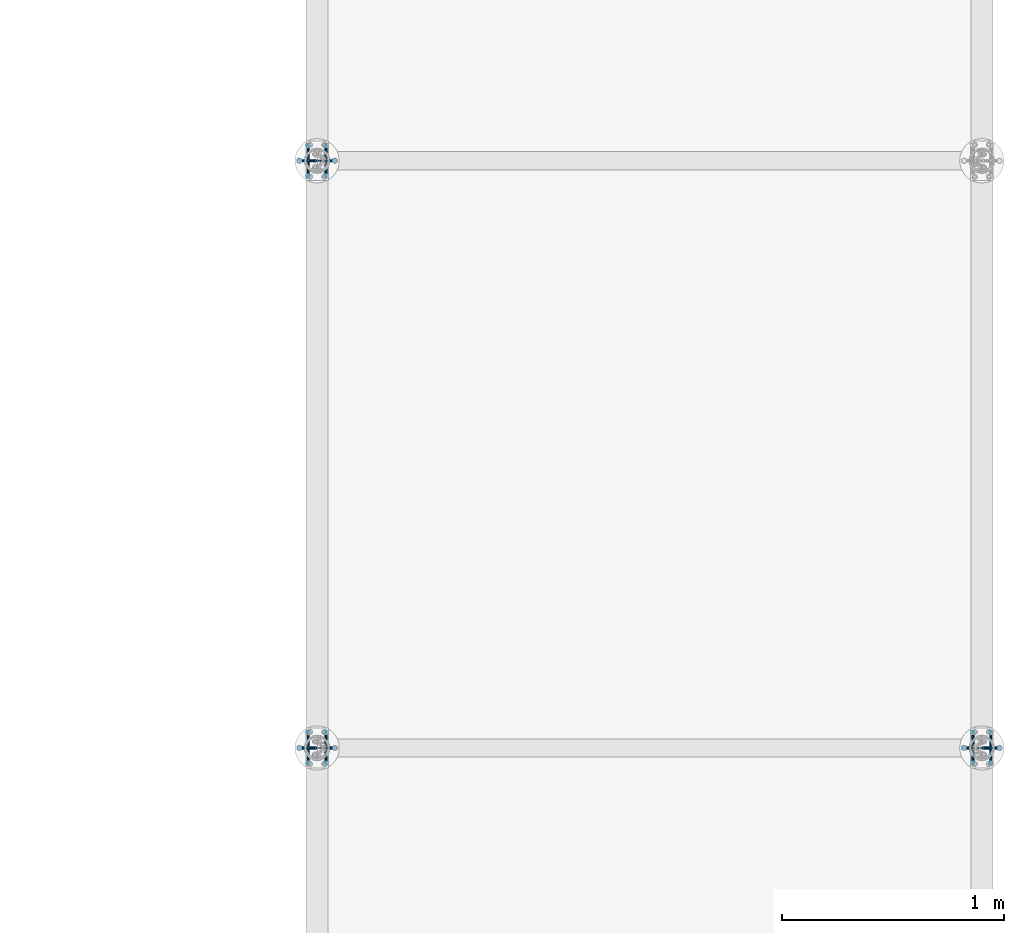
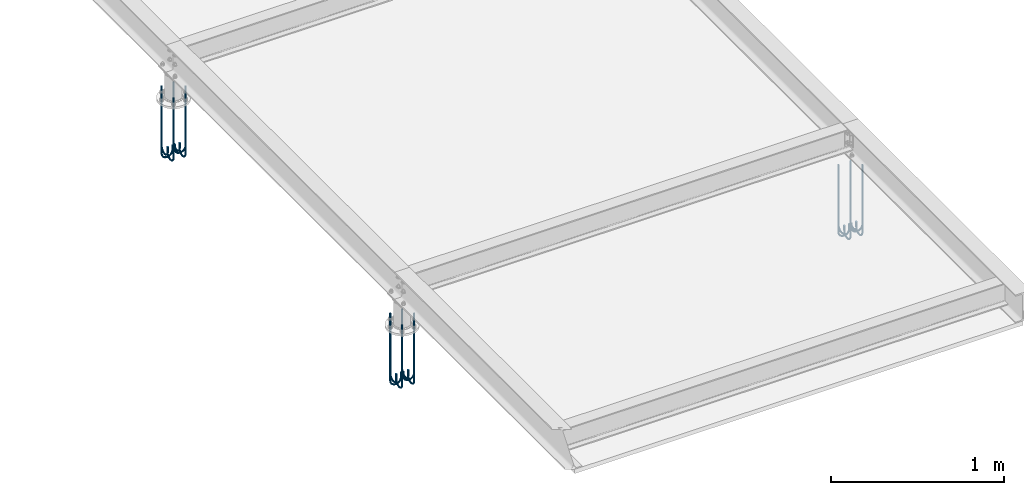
# One storey, part 10 of 84: 9 reinforcing bars.
"""IFC4 building model written with IfcOpenShell, lengths in metres."""

from ifc_helpers import new_model, entity, si_unit, frame, origin_with_axes, place, context, project, spatial, source, transform, mapped, element, save


model = new_model("IFC4")

# Units and contexts
model_context = context("Model", 3, precision=1e-05, world=origin_with_axes())
ifc_project = project(units=[si_unit("LENGTHUNIT", "METRE"), si_unit("AREAUNIT", "SQUARE_METRE"), si_unit("VOLUMEUNIT", "CUBIC_METRE"), si_unit("MASSUNIT", "GRAM", prefix="KILO"), si_unit("TIMEUNIT", "SECOND"), si_unit("PLANEANGLEUNIT", "RADIAN"), si_unit("SOLIDANGLEUNIT", "STERADIAN"), si_unit("THERMODYNAMICTEMPERATUREUNIT", "DEGREE_CELSIUS")], contexts=[model_context])

# Site, building, storey
placement_1 = place(None, origin_with_axes())
site = spatial("IfcSite", under=ifc_project, at=placement_1, Name="Italia", CompositionType="ELEMENT")
building = spatial("IfcBuilding", under=site, at=placement_1, Name="Tettoia", CompositionType="ELEMENT")
storey_placement = place(None, frame((0.0, 0.0, 4.199999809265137), z_axis=(0.0, 0.0, 1.0), x_axis=(1.0, 0.0, 0.0)))
storey = spatial("IfcBuildingStorey", under=building, at=storey_placement, Name="Storey 1", CompositionType="ELEMENT", Elevation=4.199999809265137)

# Reinforcing bars
shared_shape_1 = source(origin_with_axes(), model_context, "Body", "AdvancedSweptSolid", [
    entity("IfcSweptDiskSolid", entity("IfcIndexedPolyCurve", entity("IfcCartesianPointList3D", [[8.21, 2.0, 4.065], [8.21, 2.0, 3.642]]), [entity("IfcLineIndex", [1, 2])], False), 0.006),
])
placement_2 = place(placement_1, origin_with_axes())
reinforcing_bar_1_placement = place(placement_2, origin_with_axes())
element("IfcReinforcingBar", 1, at=reinforcing_bar_1_placement, inside=storey, BarLength=0.423, CrossSectionArea=0.0001131, NominalDiameter=0.012, context=model_context, shape_type="MappedRepresentation", body=[
    mapped(shared_shape_1, transform((0.120001, -0.0692821, 0.0), x_axis=(1.0, 0.0, 0.0), y_axis=(0.0, 1.0, 0.0), z_axis=(0.0, 0.0, 1.0), scale=1.0)),
    mapped(shared_shape_1, transform((0.0400009, -0.0692821, 0.0), x_axis=(1.0, 0.0, 0.0), y_axis=(0.0, 1.0, 0.0), z_axis=(0.0, 0.0, 1.0), scale=1.0)),
    mapped(shared_shape_1, transform((0.0, 0.0, 0.0), x_axis=(1.0, 0.0, 0.0), y_axis=(0.0, 1.0, 0.0), z_axis=(0.0, 0.0, 1.0), scale=1.0)),
    mapped(shared_shape_1, transform((0.0400009, 0.0692821, 0.0), x_axis=(1.0, 0.0, 0.0), y_axis=(0.0, 1.0, 0.0), z_axis=(0.0, 0.0, 1.0), scale=1.0)),
    mapped(shared_shape_1, transform((0.120001, 0.0692821, 0.0), x_axis=(1.0, 0.0, 0.0), y_axis=(0.0, 1.0, 0.0), z_axis=(0.0, 0.0, 1.0), scale=1.0)),
    mapped(shared_shape_1, transform((0.160002, 0.0, 0.0), x_axis=(1.0, 0.0, 0.0), y_axis=(0.0, 1.0, 0.0), z_axis=(0.0, 0.0, 1.0), scale=1.0)),
])
shared_shape_2 = source(origin_with_axes(), model_context, "Body", "AdvancedSweptSolid", [
    entity("IfcSweptDiskSolid", entity("IfcIndexedPolyCurve", entity("IfcCartesianPointList3D", [[8.21, 2.0, 3.642], [8.21274, 2.0, 3.62822]]), [entity("IfcLineIndex", [1, 2])], False), 0.006),
])
reinforcing_bar_2_placement = place(placement_2, origin_with_axes())
element("IfcReinforcingBar", 2, at=reinforcing_bar_2_placement, inside=storey, BarLength=0.0140465, CrossSectionArea=0.0001131, NominalDiameter=0.012, context=model_context, shape_type="MappedRepresentation", body=[
    mapped(shared_shape_2, transform((-0.678057, 4.0, 3.85052), x_axis=(0.923852, 0.0, 0.382749), y_axis=(0.0, -1.0, 0.0), z_axis=(0.382749, 0.0, -0.923852), scale=1.0)),
    mapped(shared_shape_2, transform((-0.0721188, 4.0, 0.386569), x_axis=(0.707114, 0.0, 0.707099), y_axis=(0.0, -1.0, 0.0), z_axis=(0.707099, 0.0, -0.707114), scale=1.0)),
    mapped(shared_shape_2, transform((1.81369, 4.0, -2.58264), x_axis=(0.382674, 0.0, 0.923883), y_axis=(0.0, -1.0, 0.0), z_axis=(0.923883, 0.0, -0.382674), scale=1.0)),
    mapped(shared_shape_2, transform((6.33, -6.37265, 0.386097), x_axis=(0.0, 0.707074, 0.707139), y_axis=(1.0, 0.0, 0.0), z_axis=(0.0, 0.707139, -0.707074), scale=1.0)),
    mapped(shared_shape_2, transform((6.25, 1.82449, -5.37005), x_axis=(0.0, -0.382722, 0.923864), y_axis=(1.0, 0.0, 0.0), z_axis=(0.0, 0.923864, 0.382722), scale=1.0)),
    mapped(shared_shape_2, transform((6.33, 1.82449, -5.37005), x_axis=(0.0, -0.382722, 0.923864), y_axis=(1.0, 0.0, 0.0), z_axis=(0.0, 0.923864, 0.382722), scale=1.0)),
    mapped(shared_shape_2, transform((8.12518, 4.0, -5.37005), x_axis=(-0.382719, 0.0, 0.923865), y_axis=(0.0, -1.0, 0.0), z_axis=(0.923865, 0.0, 0.382719), scale=1.0)),
    mapped(shared_shape_2, transform((4.6923, 4.0, -4.60413), x_axis=(-3.66271e-05, 0.0, 1.0), y_axis=(0.0, -1.0, 0.0), z_axis=(1.0, 0.0, 3.66271e-05), scale=1.0)),
    mapped(shared_shape_2, transform((6.25, -1.60844, -4.60412), x_axis=(0.0, -3.33041e-05, 1.0), y_axis=(1.0, 0.0, 0.0), z_axis=(0.0, 1.0, 3.33041e-05), scale=1.0)),
    mapped(shared_shape_2, transform((6.33, -4.48691, -2.58276), x_axis=(0.0, 0.382657, 0.923891), y_axis=(1.0, 0.0, 0.0), z_axis=(0.0, 0.923891, -0.382657), scale=1.0)),
    mapped(shared_shape_2, transform((6.33, -1.60844, -4.60412), x_axis=(0.0, -3.33041e-05, 1.0), y_axis=(1.0, 0.0, 0.0), z_axis=(0.0, 1.0, 3.33041e-05), scale=1.0)),
    mapped(shared_shape_2, transform((6.25, -6.37265, 0.386097), x_axis=(0.0, 0.707074, 0.707139), y_axis=(1.0, 0.0, 0.0), z_axis=(0.0, 0.707139, -0.707074), scale=1.0)),
    mapped(shared_shape_2, transform((6.25, -4.48691, -2.58276), x_axis=(0.0, 0.382657, 0.923891), y_axis=(1.0, 0.0, 0.0), z_axis=(0.0, 0.923891, -0.382657), scale=1.0)),
    mapped(shared_shape_2, transform((10.25, -6.2794, 0.000273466), x_axis=(0.0, 1.0, -3.33041e-05), y_axis=(-1.0, 0.0, 0.0), z_axis=(0.0, 3.33041e-05, 1.0), scale=1.0)),
    mapped(shared_shape_2, transform((10.33, 2.17551, -5.37005), x_axis=(0.0, 0.382722, 0.923864), y_axis=(-1.0, 0.0, 0.0), z_axis=(0.0, -0.923864, 0.382722), scale=1.0)),
    mapped(shared_shape_2, transform((6.33, -6.97877, 3.85082), x_axis=(0.0, 0.923865, 0.382719), y_axis=(1.0, 0.0, 0.0), z_axis=(0.0, 0.382719, -0.923865), scale=1.0)),
    mapped(shared_shape_2, transform((6.25, -6.97877, 3.85082), x_axis=(0.0, 0.923865, 0.382719), y_axis=(1.0, 0.0, 0.0), z_axis=(0.0, 0.382719, -0.923865), scale=1.0)),
    mapped(shared_shape_2, transform((10.33, -1.28919, -4.76394), x_axis=(0.0, 0.707139, 0.707074), y_axis=(-1.0, 0.0, 0.0), z_axis=(0.0, -0.707074, 0.707139), scale=1.0)),
    mapped(shared_shape_2, transform((4.99025, 0.0, -4.764), x_axis=(0.707126, 0.0, 0.707088), y_axis=(0.0, 1.0, 0.0), z_axis=(-0.707088, 0.0, 0.707126), scale=1.0)),
    mapped(shared_shape_2, transform((6.33, 5.28919, -4.76394), x_axis=(0.0, -0.707139, 0.707074), y_axis=(1.0, 0.0, 0.0), z_axis=(0.0, 0.707074, 0.707139), scale=1.0)),
    mapped(shared_shape_2, transform((6.25, 5.28919, -4.76394), x_axis=(0.0, -0.707139, 0.707074), y_axis=(1.0, 0.0, 0.0), z_axis=(0.0, 0.707074, 0.707139), scale=1.0)),
    mapped(shared_shape_2, transform((6.33, 8.25805, -2.8782), x_axis=(0.0, -0.923891, 0.382657), y_axis=(1.0, 0.0, 0.0), z_axis=(0.0, 0.382657, 0.923891), scale=1.0)),
    mapped(shared_shape_2, transform((6.25, 8.25805, -2.8782), x_axis=(0.0, -0.923891, 0.382657), y_axis=(1.0, 0.0, 0.0), z_axis=(0.0, 0.382657, 0.923891), scale=1.0)),
    mapped(shared_shape_2, transform((10.25, -1.28919, -4.76394), x_axis=(0.0, 0.707139, 0.707074), y_axis=(-1.0, 0.0, 0.0), z_axis=(0.0, -0.707074, 0.707139), scale=1.0)),
    mapped(shared_shape_2, transform((11.8877, 0.0, -4.60413), x_axis=(3.66271e-05, 0.0, 1.0), y_axis=(0.0, 1.0, 0.0), z_axis=(-1.0, 0.0, 3.66271e-05), scale=1.0)),
    mapped(shared_shape_2, transform((10.25, -4.25805, -2.8782), x_axis=(0.0, 0.923891, 0.382657), y_axis=(-1.0, 0.0, 0.0), z_axis=(0.0, -0.382657, 0.923891), scale=1.0)),
    mapped(shared_shape_2, transform((10.25, 2.17551, -5.37005), x_axis=(0.0, 0.382722, 0.923864), y_axis=(-1.0, 0.0, 0.0), z_axis=(0.0, -0.923864, 0.382722), scale=1.0)),
    mapped(shared_shape_2, transform((2.02123, 0.0, -2.8782), x_axis=(0.923891, 0.0, 0.382657), y_axis=(0.0, 1.0, 0.0), z_axis=(-0.382657, 0.0, 0.923891), scale=1.0)),
    mapped(shared_shape_2, transform((8.45482, 0.0, -5.37005), x_axis=(0.382719, 0.0, 0.923865), y_axis=(0.0, 1.0, 0.0), z_axis=(-0.923865, 0.0, 0.382719), scale=1.0)),
    mapped(shared_shape_2, transform((11.5897, 4.0, -4.764), x_axis=(-0.707126, 0.0, 0.707088), y_axis=(0.0, -1.0, 0.0), z_axis=(0.707088, 0.0, 0.707126), scale=1.0)),
    mapped(shared_shape_2, transform((10.25, 8.48689, -2.5828), x_axis=(0.0, -0.382652, 0.923892), y_axis=(-1.0, 0.0, 0.0), z_axis=(0.0, -0.923892, -0.382652), scale=1.0)),
    mapped(shared_shape_2, transform((14.5588, 4.0, -2.8782), x_axis=(-0.923891, 0.0, 0.382657), y_axis=(0.0, -1.0, 0.0), z_axis=(0.382657, 0.0, 0.923891), scale=1.0)),
    mapped(shared_shape_2, transform((10.25, 5.60846, -4.60411), x_axis=(0.0, 3.16501e-05, 1.0), y_axis=(-1.0, 0.0, 0.0), z_axis=(0.0, -1.0, 3.16501e-05), scale=1.0)),
    mapped(shared_shape_2, transform((10.33, 8.48689, -2.5828), x_axis=(0.0, -0.382652, 0.923892), y_axis=(-1.0, 0.0, 0.0), z_axis=(0.0, -0.923892, -0.382652), scale=1.0)),
    mapped(shared_shape_2, transform((10.33, 5.60846, -4.60411), x_axis=(0.0, 3.16501e-05, 1.0), y_axis=(-1.0, 0.0, 0.0), z_axis=(0.0, -1.0, 3.16501e-05), scale=1.0)),
    mapped(shared_shape_2, transform((10.33, -4.25805, -2.8782), x_axis=(0.0, 0.923891, 0.382657), y_axis=(-1.0, 0.0, 0.0), z_axis=(0.0, -0.382657, 0.923891), scale=1.0)),
    mapped(shared_shape_2, transform((14.7663, 0.0, -2.58264), x_axis=(-0.382674, 0.0, 0.923883), y_axis=(0.0, 1.0, 0.0), z_axis=(-0.923883, 0.0, -0.382674), scale=1.0)),
    mapped(shared_shape_2, transform((16.58, 4.0, 0.0), x_axis=(-1.0, 0.0, 0.0), y_axis=(0.0, -1.0, 0.0), z_axis=(0.0, 0.0, 1.0), scale=1.0)),
    mapped(shared_shape_2, transform((10.33, -6.2794, 0.000273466), x_axis=(0.0, 1.0, -3.33041e-05), y_axis=(-1.0, 0.0, 0.0), z_axis=(0.0, 3.33041e-05, 1.0), scale=1.0)),
    mapped(shared_shape_2, transform((17.2581, 0.0, 3.85052), x_axis=(-0.923852, 0.0, 0.382749), y_axis=(0.0, 1.0, 0.0), z_axis=(-0.382749, 0.0, -0.923852), scale=1.0)),
    mapped(shared_shape_2, transform((16.6521, 0.0, 0.386569), x_axis=(-0.707114, 0.0, 0.707099), y_axis=(0.0, 1.0, 0.0), z_axis=(-0.707099, 0.0, -0.707114), scale=1.0)),
    mapped(shared_shape_2, transform((0.0, 0.0, 0.0), x_axis=(1.0, 0.0, 0.0), y_axis=(0.0, 1.0, 0.0), z_axis=(0.0, 0.0, 1.0), scale=1.0)),
    mapped(shared_shape_2, transform((6.33, 10.2794, 0.000273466), x_axis=(0.0, -1.0, -3.33041e-05), y_axis=(1.0, 0.0, 0.0), z_axis=(0.0, -3.33041e-05, 1.0), scale=1.0)),
    mapped(shared_shape_2, transform((6.25, 10.2794, 0.000273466), x_axis=(0.0, -1.0, -3.33041e-05), y_axis=(1.0, 0.0, 0.0), z_axis=(0.0, -3.33041e-05, 1.0), scale=1.0)),
    mapped(shared_shape_2, transform((10.25, 10.9788, 3.85082), x_axis=(0.0, -0.923865, 0.382719), y_axis=(-1.0, 0.0, 0.0), z_axis=(0.0, -0.382719, -0.923865), scale=1.0)),
    mapped(shared_shape_2, transform((10.33, 10.3727, 0.386097), x_axis=(0.0, -0.707074, 0.707139), y_axis=(-1.0, 0.0, 0.0), z_axis=(0.0, -0.707139, -0.707074), scale=1.0)),
    mapped(shared_shape_2, transform((10.25, 10.3727, 0.386097), x_axis=(0.0, -0.707074, 0.707139), y_axis=(-1.0, 0.0, 0.0), z_axis=(0.0, -0.707139, -0.707074), scale=1.0)),
    mapped(shared_shape_2, transform((10.33, 10.9788, 3.85082), x_axis=(0.0, -0.923865, 0.382719), y_axis=(-1.0, 0.0, 0.0), z_axis=(0.0, -0.382719, -0.923865), scale=1.0)),
])
shared_shape_3 = source(origin_with_axes(), model_context, "Body", "AdvancedSweptSolid", [
    entity("IfcSweptDiskSolid", entity("IfcIndexedPolyCurve", entity("IfcCartesianPointList3D", [[8.282, 2.0, 3.642], [8.282, 2.0, 3.678]]), [entity("IfcLineIndex", [1, 2])], False), 0.006),
])
reinforcing_bar_3_placement = place(placement_2, origin_with_axes())
element("IfcReinforcingBar", 3, at=reinforcing_bar_3_placement, inside=storey, BarLength=0.0359998, CrossSectionArea=0.0001131, NominalDiameter=0.012, context=model_context, shape_type="MappedRepresentation", body=[
    mapped(shared_shape_3, transform((0.0480003, 0.00271797, 0.0), x_axis=(1.0, 0.0, 0.0), y_axis=(0.0, 1.0, 0.0), z_axis=(0.0, 0.0, 1.0), scale=1.0)),
    mapped(shared_shape_3, transform((-0.0319996, 0.00271797, 0.0), x_axis=(1.0, 0.0, 0.0), y_axis=(0.0, 1.0, 0.0), z_axis=(0.0, 0.0, 1.0), scale=1.0)),
    mapped(shared_shape_3, transform((0.0, 0.0, 0.0), x_axis=(1.0, 0.0, 0.0), y_axis=(0.0, 1.0, 0.0), z_axis=(0.0, 0.0, 1.0), scale=1.0)),
    mapped(shared_shape_3, transform((-0.0319996, -0.00271797, 0.0), x_axis=(1.0, 0.0, 0.0), y_axis=(0.0, 1.0, 0.0), z_axis=(0.0, 0.0, 1.0), scale=1.0)),
    mapped(shared_shape_3, transform((0.0480003, -0.00271797, 0.0), x_axis=(1.0, 0.0, 0.0), y_axis=(0.0, 1.0, 0.0), z_axis=(0.0, 0.0, 1.0), scale=1.0)),
    mapped(shared_shape_3, transform((0.0160007, 0.0, 0.0), x_axis=(1.0, 0.0, 0.0), y_axis=(0.0, 1.0, 0.0), z_axis=(0.0, 0.0, 1.0), scale=1.0)),
])
shared_shape_4 = source(origin_with_axes(), model_context, "Body", "AdvancedSweptSolid", [
    entity("IfcSweptDiskSolid", entity("IfcIndexedPolyCurve", entity("IfcCartesianPointList3D", [[11.21, 2.0, 4.065], [11.21, 2.0, 3.642]]), [entity("IfcLineIndex", [1, 2])], False), 0.006),
])
reinforcing_bar_4_placement = place(placement_2, origin_with_axes())
element("IfcReinforcingBar", 4, at=reinforcing_bar_4_placement, inside=storey, BarLength=0.423, CrossSectionArea=0.0001131, NominalDiameter=0.012, context=model_context, shape_type="MappedRepresentation", body=[
    mapped(shared_shape_4, transform((0.120001, -0.0692821, 0.0), x_axis=(1.0, 0.0, 0.0), y_axis=(0.0, 1.0, 0.0), z_axis=(0.0, 0.0, 1.0), scale=1.0)),
    mapped(shared_shape_4, transform((0.0400009, -0.0692821, 0.0), x_axis=(1.0, 0.0, 0.0), y_axis=(0.0, 1.0, 0.0), z_axis=(0.0, 0.0, 1.0), scale=1.0)),
    mapped(shared_shape_4, transform((0.0, 0.0, 0.0), x_axis=(1.0, 0.0, 0.0), y_axis=(0.0, 1.0, 0.0), z_axis=(0.0, 0.0, 1.0), scale=1.0)),
    mapped(shared_shape_4, transform((0.0400009, 0.0692821, 0.0), x_axis=(1.0, 0.0, 0.0), y_axis=(0.0, 1.0, 0.0), z_axis=(0.0, 0.0, 1.0), scale=1.0)),
    mapped(shared_shape_4, transform((0.120001, 0.0692821, 0.0), x_axis=(1.0, 0.0, 0.0), y_axis=(0.0, 1.0, 0.0), z_axis=(0.0, 0.0, 1.0), scale=1.0)),
    mapped(shared_shape_4, transform((0.160002, 0.0, 0.0), x_axis=(1.0, 0.0, 0.0), y_axis=(0.0, 1.0, 0.0), z_axis=(0.0, 0.0, 1.0), scale=1.0)),
])
shared_shape_5 = source(origin_with_axes(), model_context, "Body", "AdvancedSweptSolid", [
    entity("IfcSweptDiskSolid", entity("IfcIndexedPolyCurve", entity("IfcCartesianPointList3D", [[11.21, 2.0, 3.642], [11.2127, 2.0, 3.62822]]), [entity("IfcLineIndex", [1, 2])], False), 0.006),
])
reinforcing_bar_5_placement = place(placement_2, origin_with_axes())
element("IfcReinforcingBar", 5, at=reinforcing_bar_5_placement, inside=storey, BarLength=0.0140465, CrossSectionArea=0.0001131, NominalDiameter=0.012, context=model_context, shape_type="MappedRepresentation", body=[
    mapped(shared_shape_5, transform((-0.449615, 4.0, 2.70227), x_axis=(0.923852, 0.0, 0.382749), y_axis=(0.0, -1.0, 0.0), z_axis=(0.382749, 0.0, -0.923852), scale=1.0)),
    mapped(shared_shape_5, transform((9.33, -8.49388, -1.73532), x_axis=(0.0, 0.707074, 0.707139), y_axis=(1.0, 0.0, 0.0), z_axis=(0.0, 0.707139, -0.707074), scale=1.0)),
    mapped(shared_shape_5, transform((0.806538, 4.0, -1.73473), x_axis=(0.707114, 0.0, 0.707099), y_axis=(0.0, -1.0, 0.0), z_axis=(0.707099, 0.0, -0.707114), scale=1.0)),
    mapped(shared_shape_5, transform((9.33, 2.97266, -8.14164), x_axis=(0.0, -0.382722, 0.923864), y_axis=(1.0, 0.0, 0.0), z_axis=(0.0, 0.923864, 0.382722), scale=1.0)),
    mapped(shared_shape_5, transform((7.69241, 4.0, -7.60413), x_axis=(-3.65972e-05, 0.0, 1.0), y_axis=(0.0, -1.0, 0.0), z_axis=(1.0, 0.0, 3.65972e-05), scale=1.0)),
    mapped(shared_shape_5, transform((9.25, -5.63489, -5.35444), x_axis=(0.0, 0.382657, 0.923891), y_axis=(1.0, 0.0, 0.0), z_axis=(0.0, 0.923891, -0.382657), scale=1.0)),
    mapped(shared_shape_5, transform((9.25, 2.97266, -8.14164), x_axis=(0.0, -0.382722, 0.923864), y_axis=(1.0, 0.0, 0.0), z_axis=(0.0, 0.923864, 0.382722), scale=1.0)),
    mapped(shared_shape_5, transform((9.25, -1.60834, -7.60412), x_axis=(0.0, -3.32892e-05, 1.0), y_axis=(1.0, 0.0, 0.0), z_axis=(0.0, 1.0, 3.32892e-05), scale=1.0)),
    mapped(shared_shape_5, transform((9.33, -5.63489, -5.35444), x_axis=(0.0, 0.382657, 0.923891), y_axis=(1.0, 0.0, 0.0), z_axis=(0.0, 0.923891, -0.382657), scale=1.0)),
    mapped(shared_shape_5, transform((9.33, -1.60834, -7.60412), x_axis=(0.0, -3.32892e-05, 1.0), y_axis=(1.0, 0.0, 0.0), z_axis=(0.0, 1.0, 3.32892e-05), scale=1.0)),
    mapped(shared_shape_5, transform((3.66566, 4.0, -5.35429), x_axis=(0.382674, 0.0, 0.923883), y_axis=(0.0, -1.0, 0.0), z_axis=(0.923883, 0.0, -0.382674), scale=1.0)),
    mapped(shared_shape_5, transform((9.25, -8.49388, -1.73532), x_axis=(0.0, 0.707074, 0.707139), y_axis=(1.0, 0.0, 0.0), z_axis=(0.0, 0.707139, -0.707074), scale=1.0)),
    mapped(shared_shape_5, transform((12.2733, 4.0, -8.14165), x_axis=(-0.382719, 0.0, 0.923865), y_axis=(0.0, -1.0, 0.0), z_axis=(0.923865, 0.0, 0.382719), scale=1.0)),
    mapped(shared_shape_5, transform((9.25, -9.75036, 2.70266), x_axis=(0.0, 0.923865, 0.382719), y_axis=(1.0, 0.0, 0.0), z_axis=(0.0, 0.382719, -0.923865), scale=1.0)),
    mapped(shared_shape_5, transform((2.24956, 0.0, -4.02617), x_axis=(0.923891, 0.0, 0.382657), y_axis=(0.0, 1.0, 0.0), z_axis=(-0.382657, 0.0, 0.923891), scale=1.0)),
    mapped(shared_shape_5, transform((13.25, -7.02972, -4.02617), x_axis=(0.0, 0.923891, 0.382657), y_axis=(-1.0, 0.0, 0.0), z_axis=(0.0, -0.382657, 0.923891), scale=1.0)),
    mapped(shared_shape_5, transform((13.25, -9.2794, 0.000373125), x_axis=(0.0, 1.0, -3.32892e-05), y_axis=(-1.0, 0.0, 0.0), z_axis=(0.0, 3.32892e-05, 1.0), scale=1.0)),
    mapped(shared_shape_5, transform((14.8876, 0.0, -7.60413), x_axis=(3.65972e-05, 0.0, 1.0), y_axis=(0.0, 1.0, 0.0), z_axis=(-1.0, 0.0, 3.65972e-05), scale=1.0)),
    mapped(shared_shape_5, transform((13.33, -3.4106, -6.88516), x_axis=(0.0, 0.707139, 0.707074), y_axis=(-1.0, 0.0, 0.0), z_axis=(0.0, -0.707074, 0.707139), scale=1.0)),
    mapped(shared_shape_5, transform((5.86888, 0.0, -6.88526), x_axis=(0.707126, 0.0, 0.707088), y_axis=(0.0, 1.0, 0.0), z_axis=(-0.707088, 0.0, 0.707126), scale=1.0)),
    mapped(shared_shape_5, transform((9.33, 7.4106, -6.88516), x_axis=(0.0, -0.707139, 0.707074), y_axis=(1.0, 0.0, 0.0), z_axis=(0.0, 0.707074, 0.707139), scale=1.0)),
    mapped(shared_shape_5, transform((9.25, 7.4106, -6.88516), x_axis=(0.0, -0.707139, 0.707074), y_axis=(1.0, 0.0, 0.0), z_axis=(0.0, 0.707074, 0.707139), scale=1.0)),
    mapped(shared_shape_5, transform((9.33, 11.0297, -4.02617), x_axis=(0.0, -0.923891, 0.382657), y_axis=(1.0, 0.0, 0.0), z_axis=(0.0, 0.382657, 0.923891), scale=1.0)),
    mapped(shared_shape_5, transform((9.25, 11.0297, -4.02617), x_axis=(0.0, -0.923891, 0.382657), y_axis=(1.0, 0.0, 0.0), z_axis=(0.0, 0.382657, 0.923891), scale=1.0)),
    mapped(shared_shape_5, transform((9.33, -9.75036, 2.70266), x_axis=(0.0, 0.923865, 0.382719), y_axis=(1.0, 0.0, 0.0), z_axis=(0.0, 0.382719, -0.923865), scale=1.0)),
    mapped(shared_shape_5, transform((13.25, -3.4106, -6.88516), x_axis=(0.0, 0.707139, 0.707074), y_axis=(-1.0, 0.0, 0.0), z_axis=(0.0, -0.707074, 0.707139), scale=1.0)),
    mapped(shared_shape_5, transform((18.9143, 0.0, -5.35429), x_axis=(-0.382674, 0.0, 0.923883), y_axis=(0.0, 1.0, 0.0), z_axis=(-0.923883, 0.0, -0.382674), scale=1.0)),
    mapped(shared_shape_5, transform((10.3067, 0.0, -8.14165), x_axis=(0.382719, 0.0, 0.923865), y_axis=(0.0, 1.0, 0.0), z_axis=(-0.923865, 0.0, 0.382719), scale=1.0)),
    mapped(shared_shape_5, transform((13.25, 9.63484, -5.35447), x_axis=(0.0, -0.382652, 0.923892), y_axis=(-1.0, 0.0, 0.0), z_axis=(0.0, -0.923892, -0.382652), scale=1.0)),
    mapped(shared_shape_5, transform((13.25, 12.4939, -1.73532), x_axis=(0.0, -0.707074, 0.707139), y_axis=(-1.0, 0.0, 0.0), z_axis=(0.0, -0.707139, -0.707074), scale=1.0)),
    mapped(shared_shape_5, transform((13.25, 5.60836, -7.60411), x_axis=(0.0, 3.16352e-05, 1.0), y_axis=(-1.0, 0.0, 0.0), z_axis=(0.0, -1.0, 3.16352e-05), scale=1.0)),
    mapped(shared_shape_5, transform((13.33, 1.02734, -8.14164), x_axis=(0.0, 0.382722, 0.923864), y_axis=(-1.0, 0.0, 0.0), z_axis=(0.0, -0.923864, 0.382722), scale=1.0)),
    mapped(shared_shape_5, transform((13.25, 1.02734, -8.14164), x_axis=(0.0, 0.382722, 0.923864), y_axis=(-1.0, 0.0, 0.0), z_axis=(0.0, -0.923864, 0.382722), scale=1.0)),
    mapped(shared_shape_5, transform((16.7111, 4.0, -6.88526), x_axis=(-0.707126, 0.0, 0.707088), y_axis=(0.0, -1.0, 0.0), z_axis=(0.707088, 0.0, 0.707126), scale=1.0)),
    mapped(shared_shape_5, transform((13.33, 12.4939, -1.73532), x_axis=(0.0, -0.707074, 0.707139), y_axis=(-1.0, 0.0, 0.0), z_axis=(0.0, -0.707139, -0.707074), scale=1.0)),
    mapped(shared_shape_5, transform((13.33, 5.60836, -7.60411), x_axis=(0.0, 3.16352e-05, 1.0), y_axis=(-1.0, 0.0, 0.0), z_axis=(0.0, -1.0, 3.16352e-05), scale=1.0)),
    mapped(shared_shape_5, transform((20.3304, 4.0, -4.02617), x_axis=(-0.923891, 0.0, 0.382657), y_axis=(0.0, -1.0, 0.0), z_axis=(0.382657, 0.0, 0.923891), scale=1.0)),
    mapped(shared_shape_5, transform((13.33, 9.63484, -5.35447), x_axis=(0.0, -0.382652, 0.923892), y_axis=(-1.0, 0.0, 0.0), z_axis=(0.0, -0.923892, -0.382652), scale=1.0)),
    mapped(shared_shape_5, transform((13.33, -7.02972, -4.02617), x_axis=(0.0, 0.923891, 0.382657), y_axis=(-1.0, 0.0, 0.0), z_axis=(0.0, -0.382657, 0.923891), scale=1.0)),
    mapped(shared_shape_5, transform((21.7735, 0.0, -1.73473), x_axis=(-0.707114, 0.0, 0.707099), y_axis=(0.0, 1.0, 0.0), z_axis=(-0.707099, 0.0, -0.707114), scale=1.0)),
    mapped(shared_shape_5, transform((22.58, 4.0, 0.0), x_axis=(-1.0, 0.0, 0.0), y_axis=(0.0, -1.0, 0.0), z_axis=(0.0, 0.0, 1.0), scale=1.0)),
    mapped(shared_shape_5, transform((13.33, -9.2794, 0.000373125), x_axis=(0.0, 1.0, -3.32892e-05), y_axis=(-1.0, 0.0, 0.0), z_axis=(0.0, 3.32892e-05, 1.0), scale=1.0)),
    mapped(shared_shape_5, transform((23.0296, 0.0, 2.70227), x_axis=(-0.923852, 0.0, 0.382749), y_axis=(0.0, 1.0, 0.0), z_axis=(-0.382749, 0.0, -0.923852), scale=1.0)),
    mapped(shared_shape_5, transform((0.0, 0.0, 0.0), x_axis=(1.0, 0.0, 0.0), y_axis=(0.0, 1.0, 0.0), z_axis=(0.0, 0.0, 1.0), scale=1.0)),
    mapped(shared_shape_5, transform((9.25, 13.2794, 0.000373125), x_axis=(0.0, -1.0, -3.32892e-05), y_axis=(1.0, 0.0, 0.0), z_axis=(0.0, -3.32892e-05, 1.0), scale=1.0)),
    mapped(shared_shape_5, transform((9.33, 13.2794, 0.000373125), x_axis=(0.0, -1.0, -3.32892e-05), y_axis=(1.0, 0.0, 0.0), z_axis=(0.0, -3.32892e-05, 1.0), scale=1.0)),
    mapped(shared_shape_5, transform((13.33, 13.7504, 2.70266), x_axis=(0.0, -0.923865, 0.382719), y_axis=(-1.0, 0.0, 0.0), z_axis=(0.0, -0.382719, -0.923865), scale=1.0)),
    mapped(shared_shape_5, transform((13.25, 13.7504, 2.70266), x_axis=(0.0, -0.923865, 0.382719), y_axis=(-1.0, 0.0, 0.0), z_axis=(0.0, -0.382719, -0.923865), scale=1.0)),
])
shared_shape_6 = source(origin_with_axes(), model_context, "Body", "AdvancedSweptSolid", [
    entity("IfcSweptDiskSolid", entity("IfcIndexedPolyCurve", entity("IfcCartesianPointList3D", [[11.282, 2.0, 3.642], [11.282, 2.0, 3.678]]), [entity("IfcLineIndex", [1, 2])], False), 0.006),
])
reinforcing_bar_6_placement = place(placement_2, origin_with_axes())
element("IfcReinforcingBar", 6, at=reinforcing_bar_6_placement, inside=storey, BarLength=0.0359998, CrossSectionArea=0.0001131, NominalDiameter=0.012, context=model_context, shape_type="MappedRepresentation", body=[
    mapped(shared_shape_6, transform((0.0480003, 0.00271797, 0.0), x_axis=(1.0, 0.0, 0.0), y_axis=(0.0, 1.0, 0.0), z_axis=(0.0, 0.0, 1.0), scale=1.0)),
    mapped(shared_shape_6, transform((-0.0319996, 0.00271797, 0.0), x_axis=(1.0, 0.0, 0.0), y_axis=(0.0, 1.0, 0.0), z_axis=(0.0, 0.0, 1.0), scale=1.0)),
    mapped(shared_shape_6, transform((0.0, 0.0, 0.0), x_axis=(1.0, 0.0, 0.0), y_axis=(0.0, 1.0, 0.0), z_axis=(0.0, 0.0, 1.0), scale=1.0)),
    mapped(shared_shape_6, transform((-0.0319996, -0.00271797, 0.0), x_axis=(1.0, 0.0, 0.0), y_axis=(0.0, 1.0, 0.0), z_axis=(0.0, 0.0, 1.0), scale=1.0)),
    mapped(shared_shape_6, transform((0.0480003, -0.00271797, 0.0), x_axis=(1.0, 0.0, 0.0), y_axis=(0.0, 1.0, 0.0), z_axis=(0.0, 0.0, 1.0), scale=1.0)),
    mapped(shared_shape_6, transform((0.0160007, 0.0, 0.0), x_axis=(1.0, 0.0, 0.0), y_axis=(0.0, 1.0, 0.0), z_axis=(0.0, 0.0, 1.0), scale=1.0)),
])
shared_shape_7 = source(origin_with_axes(), model_context, "Body", "AdvancedSweptSolid", [
    entity("IfcSweptDiskSolid", entity("IfcIndexedPolyCurve", entity("IfcCartesianPointList3D", [[8.21, 4.65, 4.065], [8.21, 4.65, 3.642]]), [entity("IfcLineIndex", [1, 2])], False), 0.006),
])
reinforcing_bar_7_placement = place(placement_2, origin_with_axes())
element("IfcReinforcingBar", 7, at=reinforcing_bar_7_placement, inside=storey, BarLength=0.423, CrossSectionArea=0.0001131, NominalDiameter=0.012, context=model_context, shape_type="MappedRepresentation", body=[
    mapped(shared_shape_7, transform((0.120001, -0.0692821, 0.0), x_axis=(1.0, 0.0, 0.0), y_axis=(0.0, 1.0, 0.0), z_axis=(0.0, 0.0, 1.0), scale=1.0)),
    mapped(shared_shape_7, transform((0.0400009, -0.0692821, 0.0), x_axis=(1.0, 0.0, 0.0), y_axis=(0.0, 1.0, 0.0), z_axis=(0.0, 0.0, 1.0), scale=1.0)),
    mapped(shared_shape_7, transform((0.0, 0.0, 0.0), x_axis=(1.0, 0.0, 0.0), y_axis=(0.0, 1.0, 0.0), z_axis=(0.0, 0.0, 1.0), scale=1.0)),
    mapped(shared_shape_7, transform((0.0400009, 0.0692821, 0.0), x_axis=(1.0, 0.0, 0.0), y_axis=(0.0, 1.0, 0.0), z_axis=(0.0, 0.0, 1.0), scale=1.0)),
    mapped(shared_shape_7, transform((0.120001, 0.0692821, 0.0), x_axis=(1.0, 0.0, 0.0), y_axis=(0.0, 1.0, 0.0), z_axis=(0.0, 0.0, 1.0), scale=1.0)),
    mapped(shared_shape_7, transform((0.160002, 0.0, 0.0), x_axis=(1.0, 0.0, 0.0), y_axis=(0.0, 1.0, 0.0), z_axis=(0.0, 0.0, 1.0), scale=1.0)),
])
shared_shape_8 = source(origin_with_axes(), model_context, "Body", "AdvancedSweptSolid", [
    entity("IfcSweptDiskSolid", entity("IfcIndexedPolyCurve", entity("IfcCartesianPointList3D", [[8.21, 4.65, 3.642], [8.21274, 4.65, 3.62822]]), [entity("IfcLineIndex", [1, 2])], False), 0.006),
])
reinforcing_bar_8_placement = place(placement_2, origin_with_axes())
element("IfcReinforcingBar", 8, at=reinforcing_bar_8_placement, inside=storey, BarLength=0.0140465, CrossSectionArea=0.0001131, NominalDiameter=0.012, context=model_context, shape_type="MappedRepresentation", body=[
    mapped(shared_shape_8, transform((-0.678057, 9.3, 3.85052), x_axis=(0.923852, 0.0, 0.382749), y_axis=(0.0, -1.0, 0.0), z_axis=(0.382749, 0.0, -0.923852), scale=1.0)),
    mapped(shared_shape_8, transform((-0.0721188, 9.3, 0.386569), x_axis=(0.707114, 0.0, 0.707099), y_axis=(0.0, -1.0, 0.0), z_axis=(0.707099, 0.0, -0.707114), scale=1.0)),
    mapped(shared_shape_8, transform((3.6, 1.04147, -4.60408), x_axis=(0.0, -2.33799e-05, 1.0), y_axis=(1.0, 0.0, 0.0), z_axis=(0.0, 1.0, 2.33799e-05), scale=1.0)),
    mapped(shared_shape_8, transform((1.81369, 9.3, -2.58264), x_axis=(0.382674, 0.0, 0.923883), y_axis=(0.0, -1.0, 0.0), z_axis=(0.923883, 0.0, -0.382674), scale=1.0)),
    mapped(shared_shape_8, transform((3.6, 4.47446, -5.37005), x_axis=(0.0, -0.382719, 0.923865), y_axis=(1.0, 0.0, 0.0), z_axis=(0.0, 0.923865, 0.382719), scale=1.0)),
    mapped(shared_shape_8, transform((3.68, 7.93919, -4.76394), x_axis=(0.0, -0.707139, 0.707074), y_axis=(1.0, 0.0, 0.0), z_axis=(0.0, 0.707074, 0.707139), scale=1.0)),
    mapped(shared_shape_8, transform((3.6, 7.93919, -4.76394), x_axis=(0.0, -0.707139, 0.707074), y_axis=(1.0, 0.0, 0.0), z_axis=(0.0, 0.707074, 0.707139), scale=1.0)),
    mapped(shared_shape_8, transform((3.68, 10.908, -2.8782), x_axis=(0.0, -0.923891, 0.382657), y_axis=(1.0, 0.0, 0.0), z_axis=(0.0, 0.382657, 0.923891), scale=1.0)),
    mapped(shared_shape_8, transform((3.68, 4.47446, -5.37005), x_axis=(0.0, -0.382719, 0.923865), y_axis=(1.0, 0.0, 0.0), z_axis=(0.0, 0.923865, 0.382719), scale=1.0)),
    mapped(shared_shape_8, transform((4.6923, 9.3, -4.60413), x_axis=(-3.66271e-05, 0.0, 1.0), y_axis=(0.0, -1.0, 0.0), z_axis=(1.0, 0.0, 3.66271e-05), scale=1.0)),
    mapped(shared_shape_8, transform((8.12518, 9.3, -5.37005), x_axis=(-0.382719, 0.0, 0.923865), y_axis=(0.0, -1.0, 0.0), z_axis=(0.923865, 0.0, 0.382719), scale=1.0)),
    mapped(shared_shape_8, transform((3.6, 10.908, -2.8782), x_axis=(0.0, -0.923891, 0.382657), y_axis=(1.0, 0.0, 0.0), z_axis=(0.0, 0.382657, 0.923891), scale=1.0)),
    mapped(shared_shape_8, transform((3.68, -1.8368, -2.58289), x_axis=(0.0, 0.382639, 0.923898), y_axis=(1.0, 0.0, 0.0), z_axis=(0.0, 0.923898, -0.382639), scale=1.0)),
    mapped(shared_shape_8, transform((3.68, 1.04147, -4.60408), x_axis=(0.0, -2.33799e-05, 1.0), y_axis=(1.0, 0.0, 0.0), z_axis=(0.0, 1.0, 2.33799e-05), scale=1.0)),
    mapped(shared_shape_8, transform((12.9, -3.6294, 0.000273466), x_axis=(0.0, 1.0, -3.33041e-05), y_axis=(-1.0, 0.0, 0.0), z_axis=(0.0, 3.33041e-05, 1.0), scale=1.0)),
    mapped(shared_shape_8, transform((3.6, -4.32877, 3.85082), x_axis=(0.0, 0.923865, 0.382719), y_axis=(1.0, 0.0, 0.0), z_axis=(0.0, 0.382719, -0.923865), scale=1.0)),
    mapped(shared_shape_8, transform((3.6, -3.72265, 0.386097), x_axis=(0.0, 0.707074, 0.707139), y_axis=(1.0, 0.0, 0.0), z_axis=(0.0, 0.707139, -0.707074), scale=1.0)),
    mapped(shared_shape_8, transform((3.6, -1.8368, -2.58289), x_axis=(0.0, 0.382639, 0.923898), y_axis=(1.0, 0.0, 0.0), z_axis=(0.0, 0.923898, -0.382639), scale=1.0)),
    mapped(shared_shape_8, transform((3.68, -3.72265, 0.386097), x_axis=(0.0, 0.707074, 0.707139), y_axis=(1.0, 0.0, 0.0), z_axis=(0.0, 0.707139, -0.707074), scale=1.0)),
    mapped(shared_shape_8, transform((12.98, 4.82554, -5.37005), x_axis=(0.0, 0.382719, 0.923865), y_axis=(-1.0, 0.0, 0.0), z_axis=(0.0, -0.923865, 0.382719), scale=1.0)),
    mapped(shared_shape_8, transform((3.68, -4.32877, 3.85082), x_axis=(0.0, 0.923865, 0.382719), y_axis=(1.0, 0.0, 0.0), z_axis=(0.0, 0.382719, -0.923865), scale=1.0)),
    mapped(shared_shape_8, transform((12.9, 4.82554, -5.37005), x_axis=(0.0, 0.382719, 0.923865), y_axis=(-1.0, 0.0, 0.0), z_axis=(0.0, -0.923865, 0.382719), scale=1.0)),
    mapped(shared_shape_8, transform((11.8877, 0.0, -4.60413), x_axis=(3.66271e-05, 0.0, 1.0), y_axis=(0.0, 1.0, 0.0), z_axis=(-1.0, 0.0, 3.66271e-05), scale=1.0)),
    mapped(shared_shape_8, transform((0.0, 0.0, 0.0), x_axis=(1.0, 0.0, 0.0), y_axis=(0.0, 1.0, 0.0), z_axis=(0.0, 0.0, 1.0), scale=1.0)),
    mapped(shared_shape_8, transform((4.99025, 0.0, -4.764), x_axis=(0.707126, 0.0, 0.707088), y_axis=(0.0, 1.0, 0.0), z_axis=(-0.707088, 0.0, 0.707126), scale=1.0)),
    mapped(shared_shape_8, transform((12.9, -1.60805, -2.8782), x_axis=(0.0, 0.923891, 0.382657), y_axis=(-1.0, 0.0, 0.0), z_axis=(0.0, -0.382657, 0.923891), scale=1.0)),
    mapped(shared_shape_8, transform((2.02123, 0.0, -2.8782), x_axis=(0.923891, 0.0, 0.382657), y_axis=(0.0, 1.0, 0.0), z_axis=(-0.382657, 0.0, 0.923891), scale=1.0)),
    mapped(shared_shape_8, transform((3.68, 12.9294, 0.000273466), x_axis=(0.0, -1.0, -3.33041e-05), y_axis=(1.0, 0.0, 0.0), z_axis=(0.0, -3.33041e-05, 1.0), scale=1.0)),
    mapped(shared_shape_8, transform((3.6, 12.9294, 0.000273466), x_axis=(0.0, -1.0, -3.33041e-05), y_axis=(1.0, 0.0, 0.0), z_axis=(0.0, -3.33041e-05, 1.0), scale=1.0)),
    mapped(shared_shape_8, transform((12.98, -1.60805, -2.8782), x_axis=(0.0, 0.923891, 0.382657), y_axis=(-1.0, 0.0, 0.0), z_axis=(0.0, -0.382657, 0.923891), scale=1.0)),
    mapped(shared_shape_8, transform((14.7663, 0.0, -2.58264), x_axis=(-0.382674, 0.0, 0.923883), y_axis=(0.0, 1.0, 0.0), z_axis=(-0.923883, 0.0, -0.382674), scale=1.0)),
    mapped(shared_shape_8, transform((12.98, -3.6294, 0.000273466), x_axis=(0.0, 1.0, -3.33041e-05), y_axis=(-1.0, 0.0, 0.0), z_axis=(0.0, 3.33041e-05, 1.0), scale=1.0)),
    mapped(shared_shape_8, transform((17.2581, 0.0, 3.85052), x_axis=(-0.923852, 0.0, 0.382749), y_axis=(0.0, 1.0, 0.0), z_axis=(-0.382749, 0.0, -0.923852), scale=1.0)),
    mapped(shared_shape_8, transform((16.6521, 0.0, 0.386569), x_axis=(-0.707114, 0.0, 0.707099), y_axis=(0.0, 1.0, 0.0), z_axis=(-0.707099, 0.0, -0.707114), scale=1.0)),
    mapped(shared_shape_8, transform((8.45482, 0.0, -5.37005), x_axis=(0.382719, 0.0, 0.923865), y_axis=(0.0, 1.0, 0.0), z_axis=(-0.923865, 0.0, 0.382719), scale=1.0)),
    mapped(shared_shape_8, transform((11.5897, 9.3, -4.764), x_axis=(-0.707126, 0.0, 0.707088), y_axis=(0.0, -1.0, 0.0), z_axis=(0.707088, 0.0, 0.707126), scale=1.0)),
    mapped(shared_shape_8, transform((12.9, 13.6288, 3.85082), x_axis=(0.0, -0.923865, 0.382719), y_axis=(-1.0, 0.0, 0.0), z_axis=(0.0, -0.382719, -0.923865), scale=1.0)),
    mapped(shared_shape_8, transform((12.9, 13.0227, 0.386097), x_axis=(0.0, -0.707074, 0.707139), y_axis=(-1.0, 0.0, 0.0), z_axis=(0.0, -0.707139, -0.707074), scale=1.0)),
    mapped(shared_shape_8, transform((12.9, 11.1368, -2.58289), x_axis=(0.0, -0.382639, 0.923898), y_axis=(-1.0, 0.0, 0.0), z_axis=(0.0, -0.923898, -0.382639), scale=1.0)),
    mapped(shared_shape_8, transform((12.9, 8.25853, -4.60408), x_axis=(0.0, 2.33799e-05, 1.0), y_axis=(-1.0, 0.0, 0.0), z_axis=(0.0, -1.0, 2.33799e-05), scale=1.0)),
    mapped(shared_shape_8, transform((12.9, 1.36081, -4.76394), x_axis=(0.0, 0.707139, 0.707074), y_axis=(-1.0, 0.0, 0.0), z_axis=(0.0, -0.707074, 0.707139), scale=1.0)),
    mapped(shared_shape_8, transform((12.98, 13.6288, 3.85082), x_axis=(0.0, -0.923865, 0.382719), y_axis=(-1.0, 0.0, 0.0), z_axis=(0.0, -0.382719, -0.923865), scale=1.0)),
    mapped(shared_shape_8, transform((12.98, 13.0227, 0.386097), x_axis=(0.0, -0.707074, 0.707139), y_axis=(-1.0, 0.0, 0.0), z_axis=(0.0, -0.707139, -0.707074), scale=1.0)),
    mapped(shared_shape_8, transform((12.98, 11.1368, -2.58289), x_axis=(0.0, -0.382639, 0.923898), y_axis=(-1.0, 0.0, 0.0), z_axis=(0.0, -0.923898, -0.382639), scale=1.0)),
    mapped(shared_shape_8, transform((12.98, 8.25853, -4.60408), x_axis=(0.0, 2.33799e-05, 1.0), y_axis=(-1.0, 0.0, 0.0), z_axis=(0.0, -1.0, 2.33799e-05), scale=1.0)),
    mapped(shared_shape_8, transform((12.98, 1.36081, -4.76394), x_axis=(0.0, 0.707139, 0.707074), y_axis=(-1.0, 0.0, 0.0), z_axis=(0.0, -0.707074, 0.707139), scale=1.0)),
    mapped(shared_shape_8, transform((14.5588, 9.3, -2.8782), x_axis=(-0.923891, 0.0, 0.382657), y_axis=(0.0, -1.0, 0.0), z_axis=(0.382657, 0.0, 0.923891), scale=1.0)),
    mapped(shared_shape_8, transform((16.58, 9.3, 0.0), x_axis=(-1.0, 0.0, 0.0), y_axis=(0.0, -1.0, 0.0), z_axis=(0.0, 0.0, 1.0), scale=1.0)),
])
shared_shape_9 = source(origin_with_axes(), model_context, "Body", "AdvancedSweptSolid", [
    entity("IfcSweptDiskSolid", entity("IfcIndexedPolyCurve", entity("IfcCartesianPointList3D", [[8.282, 4.65, 3.642], [8.282, 4.65, 3.678]]), [entity("IfcLineIndex", [1, 2])], False), 0.006),
])
reinforcing_bar_9_placement = place(placement_2, origin_with_axes())
element("IfcReinforcingBar", 9, at=reinforcing_bar_9_placement, inside=storey, BarLength=0.0359998, CrossSectionArea=0.0001131, NominalDiameter=0.012, context=model_context, shape_type="MappedRepresentation", body=[
    mapped(shared_shape_9, transform((0.0480003, 0.00271797, 0.0), x_axis=(1.0, 0.0, 0.0), y_axis=(0.0, 1.0, 0.0), z_axis=(0.0, 0.0, 1.0), scale=1.0)),
    mapped(shared_shape_9, transform((-0.0319996, 0.00271797, 0.0), x_axis=(1.0, 0.0, 0.0), y_axis=(0.0, 1.0, 0.0), z_axis=(0.0, 0.0, 1.0), scale=1.0)),
    mapped(shared_shape_9, transform((0.0, 0.0, 0.0), x_axis=(1.0, 0.0, 0.0), y_axis=(0.0, 1.0, 0.0), z_axis=(0.0, 0.0, 1.0), scale=1.0)),
    mapped(shared_shape_9, transform((-0.0319996, -0.00271797, 0.0), x_axis=(1.0, 0.0, 0.0), y_axis=(0.0, 1.0, 0.0), z_axis=(0.0, 0.0, 1.0), scale=1.0)),
    mapped(shared_shape_9, transform((0.0480003, -0.00271797, 0.0), x_axis=(1.0, 0.0, 0.0), y_axis=(0.0, 1.0, 0.0), z_axis=(0.0, 0.0, 1.0), scale=1.0)),
    mapped(shared_shape_9, transform((0.0160007, 0.0, 0.0), x_axis=(1.0, 0.0, 0.0), y_axis=(0.0, 1.0, 0.0), z_axis=(0.0, 0.0, 1.0), scale=1.0)),
])

save(model, "model.ifc")
